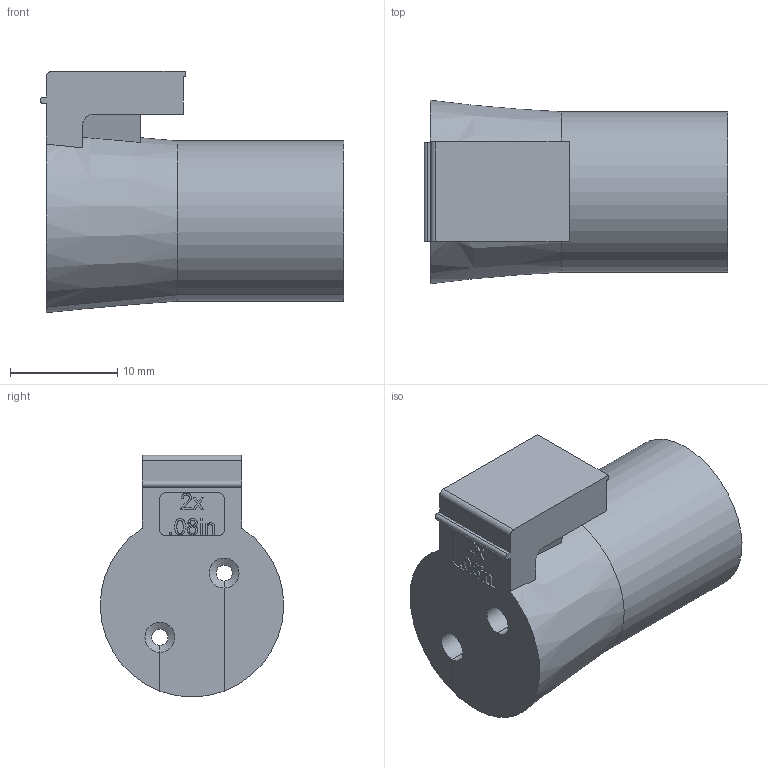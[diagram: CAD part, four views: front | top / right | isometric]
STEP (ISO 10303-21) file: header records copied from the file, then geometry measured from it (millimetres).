
FILE_DESCRIPTION(/* description */ (''),/* implementation_level */ '2;1');
FILE_NAME(/* name */ 'H:\SapWorkDir\Inventor\MP1\ConvertTempPath\87_12_121330_00_A_220525_KDT-X 2x2.stp',/* time_stamp */ '2022-05-30T12:48:51+02:00',/* author */ ('BAUER'),/* organization */ (''),/* preprocessor_version */ 'ST-DEVELOPER v16.13',/* originating_system */ 'Autodesk Inventor 2018',/* authorisation */ '');
FILE_SCHEMA (('AUTOMOTIVE_DESIGN { 1 0 10303 214 3 1 1 }'));
Length unit declared in the file: millimetre
Products named in the file (1): 121330
Bounding box: 28.4 x 17.14 x 22.55 mm (x, y, z)
Volume: 5502.9 mm3; surface area: 3261.1 mm2
Topology: 1 solids, 1 shells, 139 faces, 377 edges, 252 vertices
Faces by surface type: plane 74, bspline 42, cylinder 17, cone 6
Entity records: 4636 total; most frequent: CARTESIAN_POINT 1327, ORIENTED_EDGE 754, DIRECTION 523, EDGE_CURVE 377, VERTEX_POINT 252, LINE 243, VECTOR 243, EDGE_LOOP 151
